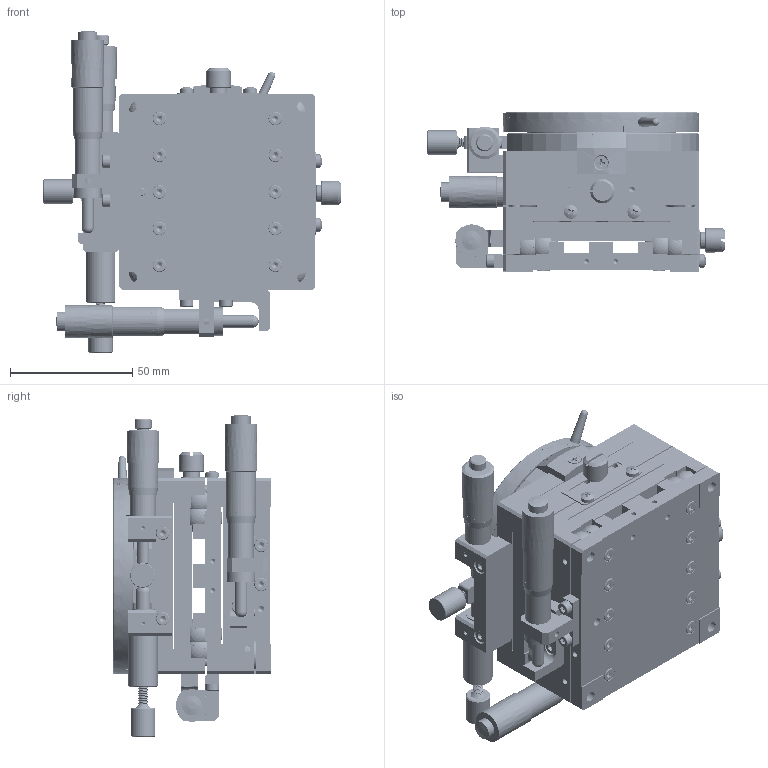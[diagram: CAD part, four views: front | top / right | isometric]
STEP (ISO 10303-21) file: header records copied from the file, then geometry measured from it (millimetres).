
FILE_DESCRIPTION (( 'STEP AP203' ), '1' );
FILE_NAME ('BLR80.STEP', '2024-07-27T07:44:16', ( 'Windows User' ), ( 'P R C' ), 'SwSTEP 2.0', 'SolidWorks 2024', '' );
FILE_SCHEMA (( 'CONFIG_CONTROL_DESIGN' ));
Products named in the file (1): BLR80
Bounding box: 121.66 x 65 x 131.68 mm (x, y, z)
Volume: 357734 mm3; surface area: 203687.3 mm2
Topology: 112 solids, 112 shells, 8435 faces, 21937 edges, 14281 vertices
Faces by surface type: bspline 3808, plane 2372, cylinder 1532, cone 621, torus 94, sphere 8
Full cylindrical faces by diameter (mm): 1.6 x4, 2.05 x10, 2.5 x63, 2.55 x40, 2.6 x1, 2.8 x1, 2.85 x1, 2.9 x6, 2.95 x18, 3 x61, 3.1 x4, 3.2 x6, 3.3 x34, 3.4 x52, 4 x6, 4.4 x40, 4.5 x18, 5 x7, 5.3 x1, 5.5 x59, 5.6 x4, 5.8 x4, 6 x48, 7 x7, 8 x16, 8.1 x2, 8.5 x1, 8.8 x1, 9 x2, 9.5 x9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
Entity records: 484835 total; most frequent: CARTESIAN_POINT 320725, ORIENTED_EDGE 41216, EDGE_CURVE 20608, DIRECTION 19067, VERTEX_POINT 13956, B_SPLINE_CURVE_WITH_KNOTS 13430, EDGE_LOOP 10384, FACE_OUTER_BOUND 9051
